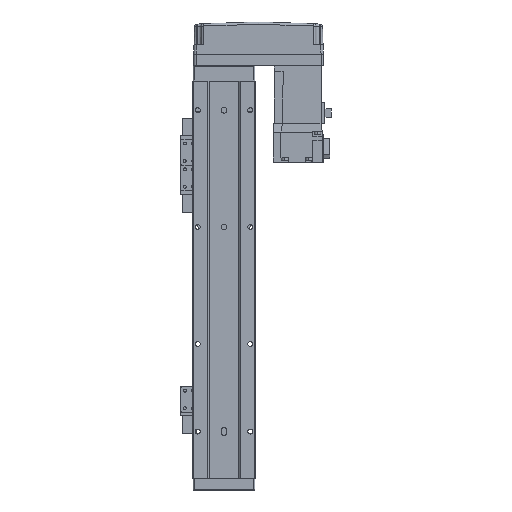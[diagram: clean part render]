
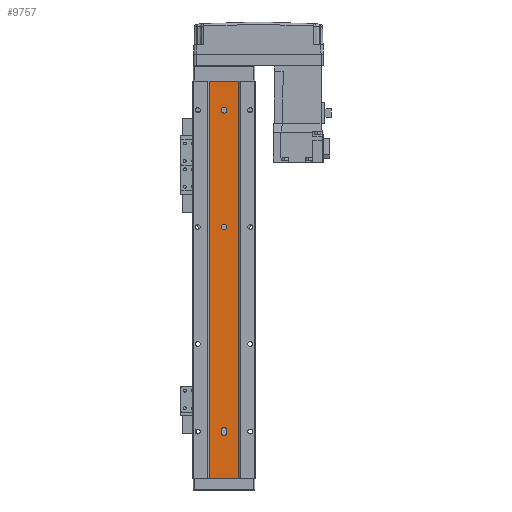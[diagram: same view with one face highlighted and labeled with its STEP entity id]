
A CAD part, front view. The second image highlights one B-rep face of the part: STEP entity #9757.
In plain terms, the highlighted planar face has unit normal (0, -1, 0).
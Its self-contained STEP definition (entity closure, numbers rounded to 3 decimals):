
#532 = CARTESIAN_POINT ( 'NONE',  ( -12.293, 1.5, -340. ) ) ;
#691 = VERTEX_POINT ( 'NONE', #19948 ) ;
#815 = FACE_BOUND ( 'NONE', #16108, .T. ) ;
#847 = AXIS2_PLACEMENT_3D ( 'NONE', #1046, #9478, #23673 ) ;
#993 = CIRCLE ( 'NONE', #20871, 2.5 ) ;
#1032 = DIRECTION ( 'NONE',  ( 0., 0., 1. ) ) ;
#1046 = CARTESIAN_POINT ( 'NONE',  ( 0., 1.5, -301. ) ) ;
#1875 = VERTEX_POINT ( 'NONE', #2787 ) ;
#2787 = CARTESIAN_POINT ( 'NONE',  ( 12.293, 1.5, 0. ) ) ;
#3254 = CARTESIAN_POINT ( 'NONE',  ( 0., 1.5, -25. ) ) ;
#3568 = CARTESIAN_POINT ( 'NONE',  ( 0., 1.5, -25. ) ) ;
#3853 = VERTEX_POINT ( 'NONE', #10389 ) ;
#4043 = AXIS2_PLACEMENT_3D ( 'NONE', #24574, #30224, #13349 ) ;
#4163 = CARTESIAN_POINT ( 'NONE',  ( 12.293, 1.5, -340. ) ) ;
#4408 = ORIENTED_EDGE ( 'NONE', *, *, #31112, .F. ) ;
#4754 = CARTESIAN_POINT ( 'NONE',  ( 0., 1.5, -125. ) ) ;
#5288 = VECTOR ( 'NONE', #24483, 1000. ) ;
#6127 = DIRECTION ( 'NONE',  ( 1., 0., 0. ) ) ;
#6701 = DIRECTION ( 'NONE',  ( 0., -1., 0. ) ) ;
#6759 = CARTESIAN_POINT ( 'NONE',  ( -2.5, 1.5, -125. ) ) ;
#7105 = CARTESIAN_POINT ( 'NONE',  ( 12.293, 1.5, 0. ) ) ;
#7503 = DIRECTION ( 'NONE',  ( 1., 0., 0. ) ) ;
#7743 = AXIS2_PLACEMENT_3D ( 'NONE', #15101, #6701, #15222 ) ;
#7837 = EDGE_LOOP ( 'NONE', ( #16609, #21349 ) ) ;
#8759 = CARTESIAN_POINT ( 'NONE',  ( 2.5, 1.5, -125. ) ) ;
#9007 = CARTESIAN_POINT ( 'NONE',  ( -2.5, 1.5, -299. ) ) ;
#9259 = FACE_BOUND ( 'NONE', #7837, .T. ) ;
#9269 = DIRECTION ( 'NONE',  ( 1., 0., 0. ) ) ;
#9478 = DIRECTION ( 'NONE',  ( 0., -1., 0. ) ) ;
#9757 = ADVANCED_FACE ( 'NONE', ( #815, #9259, #18532, #33494 ), #35992, .T. ) ;
#10260 = LINE ( 'NONE', #27627, #16405 ) ;
#10389 = CARTESIAN_POINT ( 'NONE',  ( 2.5, 1.5, -301. ) ) ;
#10764 = ORIENTED_EDGE ( 'NONE', *, *, #11758, .F. ) ;
#11287 = ORIENTED_EDGE ( 'NONE', *, *, #33292, .F. ) ;
#11445 = LINE ( 'NONE', #4163, #36105 ) ;
#11758 = EDGE_CURVE ( 'NONE', #691, #15735, #16494, .T. ) ;
#11973 = CARTESIAN_POINT ( 'NONE',  ( 2.5, 1.5, -25. ) ) ;
#12288 = CARTESIAN_POINT ( 'NONE',  ( -12.293, 1.5, 0. ) ) ;
#12518 = EDGE_CURVE ( 'NONE', #28566, #26406, #27418, .T. ) ;
#12576 = ORIENTED_EDGE ( 'NONE', *, *, #29133, .F. ) ;
#12644 = VERTEX_POINT ( 'NONE', #15339 ) ;
#13349 = DIRECTION ( 'NONE',  ( 1., 0., 0. ) ) ;
#15013 = ORIENTED_EDGE ( 'NONE', *, *, #21073, .F. ) ;
#15101 = CARTESIAN_POINT ( 'NONE',  ( 0., 1.5, -125. ) ) ;
#15222 = DIRECTION ( 'NONE',  ( 1., 0., 0. ) ) ;
#15339 = CARTESIAN_POINT ( 'NONE',  ( -2.5, 1.5, -301. ) ) ;
#15735 = VERTEX_POINT ( 'NONE', #9007 ) ;
#16094 = EDGE_CURVE ( 'NONE', #26406, #28566, #19647, .T. ) ;
#16108 = EDGE_LOOP ( 'NONE', ( #4408, #15013, #10764, #18103 ) ) ;
#16365 = DIRECTION ( 'NONE',  ( 0., -1., 0. ) ) ;
#16405 = VECTOR ( 'NONE', #33271, 1000. ) ;
#16488 = AXIS2_PLACEMENT_3D ( 'NONE', #4754, #16365, #30671 ) ;
#16494 = CIRCLE ( 'NONE', #29442, 2.5 ) ;
#16609 = ORIENTED_EDGE ( 'NONE', *, *, #12518, .F. ) ;
#17134 = EDGE_CURVE ( 'NONE', #3853, #691, #10260, .T. ) ;
#17343 = DIRECTION ( 'NONE',  ( 0., -1., 0. ) ) ;
#17807 = CIRCLE ( 'NONE', #28936, 2.5 ) ;
#17976 = EDGE_LOOP ( 'NONE', ( #11287, #32197, #29478, #31762 ) ) ;
#18103 = ORIENTED_EDGE ( 'NONE', *, *, #17134, .F. ) ;
#18194 = DIRECTION ( 'NONE',  ( 1., 0., 0. ) ) ;
#18284 = EDGE_CURVE ( 'NONE', #29107, #31749, #27711, .T. ) ;
#18532 = FACE_BOUND ( 'NONE', #31662, .T. ) ;
#19647 = CIRCLE ( 'NONE', #16488, 2.5 ) ;
#19707 = LINE ( 'NONE', #29201, #32053 ) ;
#19948 = CARTESIAN_POINT ( 'NONE',  ( 2.5, 1.5, -299. ) ) ;
#20231 = VECTOR ( 'NONE', #31116, 1000. ) ;
#20508 = VECTOR ( 'NONE', #18194, 1000. ) ;
#20871 = AXIS2_PLACEMENT_3D ( 'NONE', #3254, #17343, #6127 ) ;
#21073 = EDGE_CURVE ( 'NONE', #15735, #12644, #26050, .T. ) ;
#21187 = CARTESIAN_POINT ( 'NONE',  ( 0., 1.5, -299. ) ) ;
#21349 = ORIENTED_EDGE ( 'NONE', *, *, #16094, .F. ) ;
#22094 = EDGE_CURVE ( 'NONE', #29373, #1875, #19707, .T. ) ;
#23133 = ORIENTED_EDGE ( 'NONE', *, *, #24870, .F. ) ;
#23673 = DIRECTION ( 'NONE',  ( 1., 0., 0. ) ) ;
#24010 = CARTESIAN_POINT ( 'NONE',  ( 12.293, 1.5, -340. ) ) ;
#24162 = DIRECTION ( 'NONE',  ( 0., -1., 0. ) ) ;
#24483 = DIRECTION ( 'NONE',  ( 0., 0., -1. ) ) ;
#24574 = CARTESIAN_POINT ( 'NONE',  ( 12.293, 1.5, -340. ) ) ;
#24870 = EDGE_CURVE ( 'NONE', #27660, #35468, #17807, .T. ) ;
#26050 = LINE ( 'NONE', #30023, #5288 ) ;
#26406 = VERTEX_POINT ( 'NONE', #6759 ) ;
#27418 = CIRCLE ( 'NONE', #7743, 2.5 ) ;
#27627 = CARTESIAN_POINT ( 'NONE',  ( 2.5, 1.5, -340. ) ) ;
#27660 = VERTEX_POINT ( 'NONE', #35492 ) ;
#27711 = LINE ( 'NONE', #28290, #20231 ) ;
#28290 = CARTESIAN_POINT ( 'NONE',  ( -12.293, 1.5, -340. ) ) ;
#28566 = VERTEX_POINT ( 'NONE', #8759 ) ;
#28888 = DIRECTION ( 'NONE',  ( 0., -1., 0. ) ) ;
#28936 = AXIS2_PLACEMENT_3D ( 'NONE', #3568, #28888, #9269 ) ;
#29107 = VERTEX_POINT ( 'NONE', #532 ) ;
#29133 = EDGE_CURVE ( 'NONE', #35468, #27660, #993, .T. ) ;
#29201 = CARTESIAN_POINT ( 'NONE',  ( 12.293, 1.5, -340. ) ) ;
#29373 = VERTEX_POINT ( 'NONE', #24010 ) ;
#29442 = AXIS2_PLACEMENT_3D ( 'NONE', #21187, #24162, #7503 ) ;
#29478 = ORIENTED_EDGE ( 'NONE', *, *, #36494, .T. ) ;
#30023 = CARTESIAN_POINT ( 'NONE',  ( -2.5, 1.5, -340. ) ) ;
#30203 = DIRECTION ( 'NONE',  ( 1., 0., 0. ) ) ;
#30224 = DIRECTION ( 'NONE',  ( 0., -1., 0. ) ) ;
#30671 = DIRECTION ( 'NONE',  ( 1., 0., 0. ) ) ;
#31112 = EDGE_CURVE ( 'NONE', #12644, #3853, #34437, .T. ) ;
#31116 = DIRECTION ( 'NONE',  ( 0., 0., 1. ) ) ;
#31662 = EDGE_LOOP ( 'NONE', ( #12576, #23133 ) ) ;
#31749 = VERTEX_POINT ( 'NONE', #12288 ) ;
#31762 = ORIENTED_EDGE ( 'NONE', *, *, #22094, .T. ) ;
#32053 = VECTOR ( 'NONE', #1032, 1000. ) ;
#32197 = ORIENTED_EDGE ( 'NONE', *, *, #18284, .F. ) ;
#33271 = DIRECTION ( 'NONE',  ( 0., 0., 1. ) ) ;
#33292 = EDGE_CURVE ( 'NONE', #31749, #1875, #35484, .T. ) ;
#33494 = FACE_OUTER_BOUND ( 'NONE', #17976, .T. ) ;
#34437 = CIRCLE ( 'NONE', #847, 2.5 ) ;
#35468 = VERTEX_POINT ( 'NONE', #11973 ) ;
#35484 = LINE ( 'NONE', #7105, #20508 ) ;
#35492 = CARTESIAN_POINT ( 'NONE',  ( -2.5, 1.5, -25. ) ) ;
#35992 = PLANE ( 'NONE',  #4043 ) ;
#36105 = VECTOR ( 'NONE', #30203, 1000. ) ;
#36494 = EDGE_CURVE ( 'NONE', #29107, #29373, #11445, .T. ) ;
